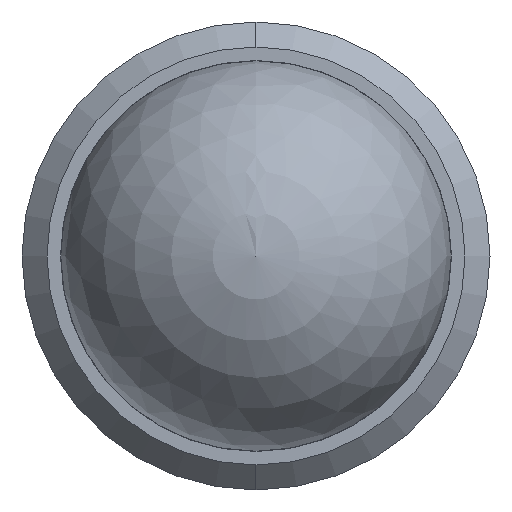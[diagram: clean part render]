
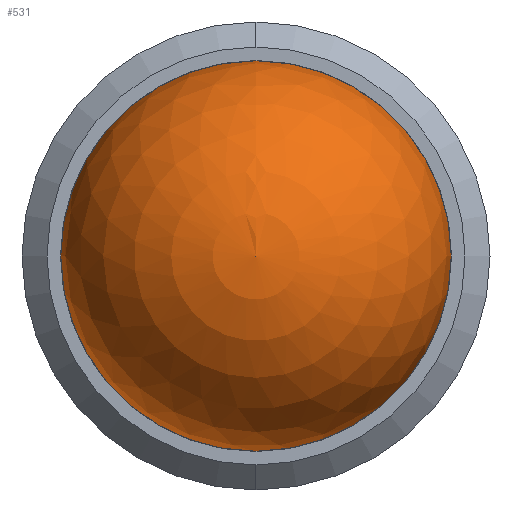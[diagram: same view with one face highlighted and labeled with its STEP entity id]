
A CAD part, left-side view. The second image highlights one B-rep face of the part: STEP entity #531.
In plain terms, the highlighted spherical face has radius 1.984 mm.
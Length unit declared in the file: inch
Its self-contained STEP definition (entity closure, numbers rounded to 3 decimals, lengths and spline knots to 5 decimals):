
#25 = DIRECTION ( 'NONE',  ( -1., 0., 0. ) ) ;
#71 = CIRCLE ( 'NONE', #604, 0.07813 ) ;
#80 = CIRCLE ( 'NONE', #593, 0.07813 ) ;
#120 = EDGE_CURVE ( 'NONE', #281, #262, #71, .T. ) ;
#128 = EDGE_CURVE ( 'NONE', #281, #262, #80, .T. ) ;
#170 = EDGE_LOOP ( 'NONE', ( #288, #201 ) ) ;
#183 = DIRECTION ( 'NONE',  ( 1., 0., 0. ) ) ;
#201 = ORIENTED_EDGE ( 'NONE', *, *, #120, .T. ) ;
#243 = CARTESIAN_POINT ( 'NONE',  ( 0., 0., 0. ) ) ;
#262 = VERTEX_POINT ( 'NONE', #368 ) ;
#281 = VERTEX_POINT ( 'NONE', #500 ) ;
#288 = ORIENTED_EDGE ( 'NONE', *, *, #128, .F. ) ;
#302 = DIRECTION ( 'NONE',  ( 0., 0., 1. ) ) ;
#364 = CARTESIAN_POINT ( 'NONE',  ( 0., 0., 0. ) ) ;
#368 = CARTESIAN_POINT ( 'NONE',  ( 0., -0.07813, 0. ) ) ;
#405 = DIRECTION ( 'NONE',  ( 0., 0., 1. ) ) ;
#417 = AXIS2_PLACEMENT_3D ( 'NONE', #364, #25, #405 ) ;
#449 = CARTESIAN_POINT ( 'NONE',  ( 0., 0., 0. ) ) ;
#456 = SPHERICAL_SURFACE ( 'NONE', #417, 0.07813 ) ;
#481 = DIRECTION ( 'NONE',  ( 0., 0., -1. ) ) ;
#500 = CARTESIAN_POINT ( 'NONE',  ( 0., 0.07813, 0. ) ) ;
#531 = ADVANCED_FACE ( 'NONE', ( #616 ), #456, .T. ) ;
#532 = DIRECTION ( 'NONE',  ( -1., 0., 0. ) ) ;
#593 = AXIS2_PLACEMENT_3D ( 'NONE', #449, #183, #481 ) ;
#604 = AXIS2_PLACEMENT_3D ( 'NONE', #243, #532, #302 ) ;
#616 = FACE_OUTER_BOUND ( 'NONE', #170, .T. ) ;
